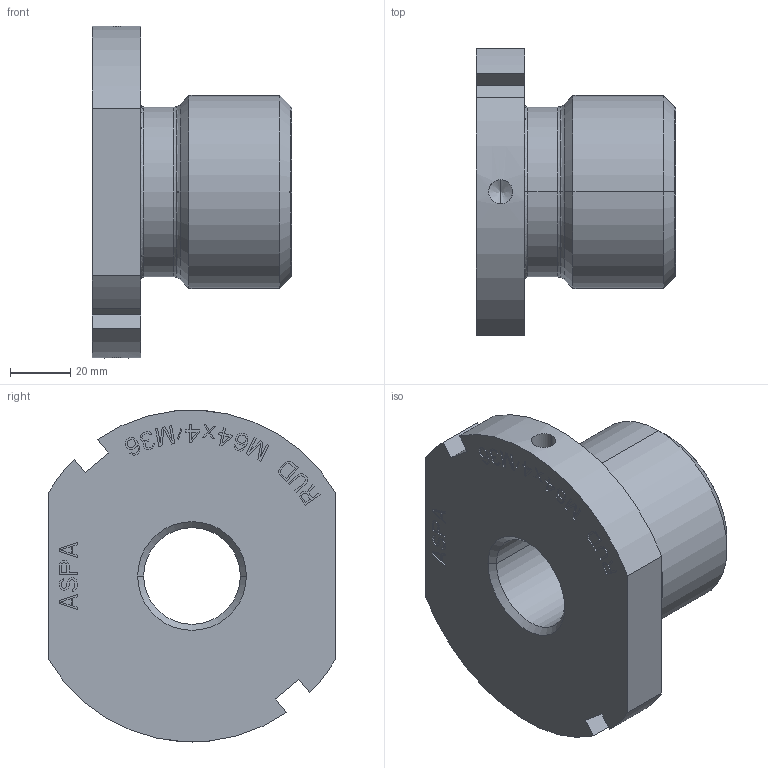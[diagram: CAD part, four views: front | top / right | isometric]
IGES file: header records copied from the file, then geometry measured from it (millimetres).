
Start section:  PTC IGES file: Gewindeadapter_ASPA_M64x4xM36_7903251_M32236-P-25.igs
Global section: file name: Gewindeadapter_ASPA_M64x4xM36_7903251_M32236-P-25.igs; native system: Pro/ENGINEER by Parametric Technology Corporation; preprocessor: 2010140; author: Andreas.Wendler; organization: Unknown; date: 20140604.100419; units: millimetre
Bounding box: 66 x 95 x 110 mm (x, y, z)
Volume: 234733.2 mm3; surface area: 146930.4 mm2
Topology: 1 solids, 3 shells, 499 faces, 1451 edges, 1026 vertices
Faces by surface type: bspline 461, revolution 38
